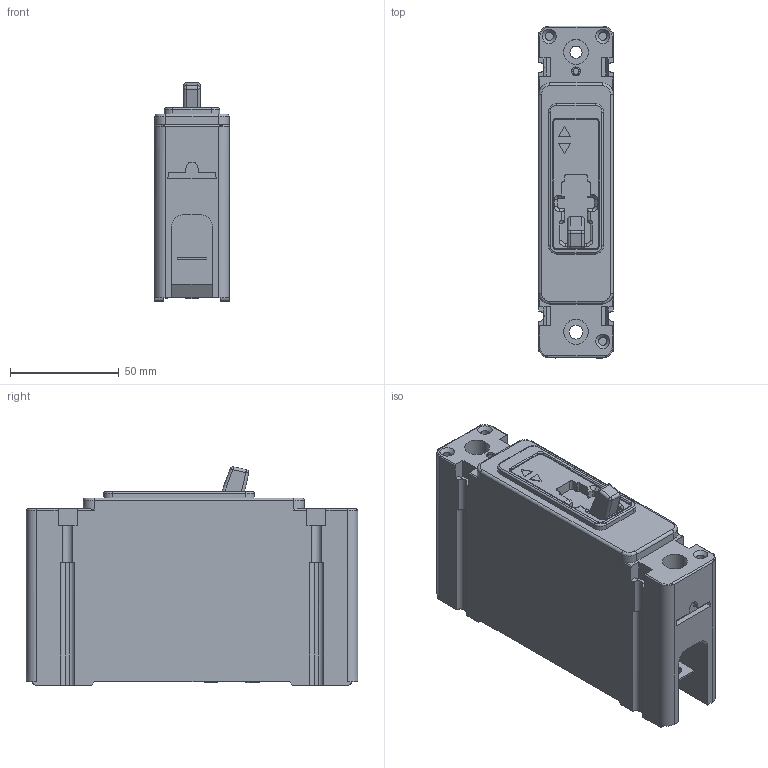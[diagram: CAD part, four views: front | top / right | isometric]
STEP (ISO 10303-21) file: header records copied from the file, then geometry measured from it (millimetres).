
FILE_DESCRIPTION((''),'2;1');
FILE_NAME('C:\Users\E0021267\Desktop\CAD Model Project\ECO-074990 - FD FIXES - In Process\EHD1_.stp','2014-12-09T16:52:13',('E0021267'),(''),'Autodesk Inventor 2013','Autodesk Inventor 2013','');
FILE_SCHEMA(('AUTOMOTIVE_DESIGN { 1 2 10303 214 0 1 1 1 }'));
Length unit declared in the file: inch
Products named in the file (1): EHD1_
Bounding box: 34.14 x 152.4 x 100.34 mm (x, y, z)
Volume: 378655.3 mm3; surface area: 52773.2 mm2
Topology: 1 solids, 1 shells, 423 faces, 1110 edges, 708 vertices
Faces by surface type: plane 264, cylinder 120, torus 16, bspline 10, cone 9, sphere 4
Full cylindrical faces by diameter (mm): 2.794 x1, 3.708 x5, 3.962 x1, 5.563 x1, 6.35 x3, 11.43 x2
Entity records: 13279 total; most frequent: CARTESIAN_POINT 2739, DIRECTION 2176, ORIENTED_EDGE 2174, EDGE_CURVE 1087, VECTOR 784, LINE 784, VERTEX_POINT 707, AXIS2_PLACEMENT_3D 696
